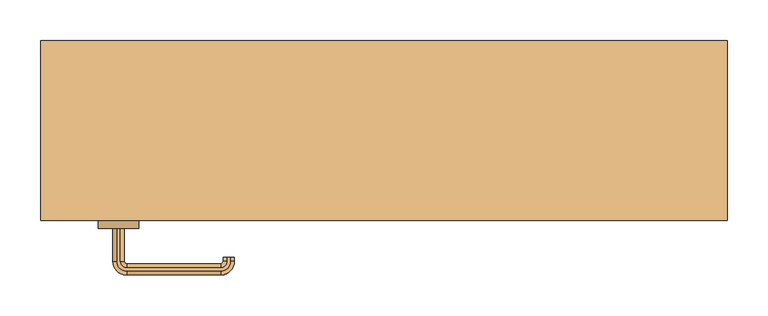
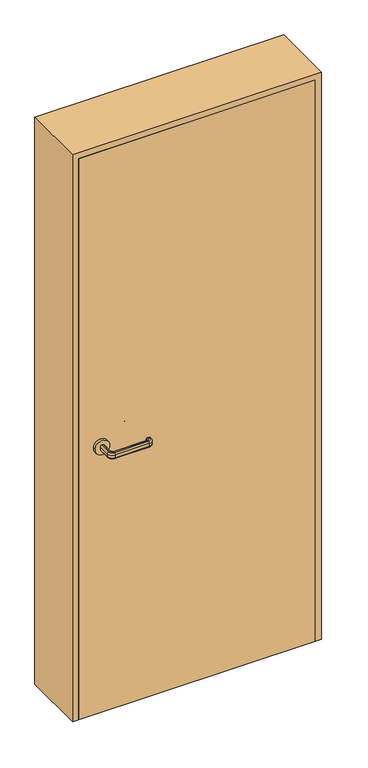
"""IFC4 building model written with IfcOpenShell, lengths in millimetres: door geometry, 鋼製_片開きマンション黒 : SD-2 w800h2000."""

from ifc_helpers import new_model, si_unit, point, frame, frame_2d, origin, origin_with_axes, place, context, project, spatial, polyline, circle_curve, ellipse_curve, trimmed, segment, composite_curve, outline, extrude, source, transform, mapped, element, save
from ifc_brep_helpers import plane_surface, cylinder_surface, revolved_surface, advanced_brep


def door_74c77d62(model_context):
    return source(origin(), model_context, "Body", "SolidModel", [
        advanced_brep(
        [(-327.0, -120.0, 960.0), (-323.0, -120.0, 960.0), (-318.0, -120.0, 955.0), (-318.0, -120.0, 945.0477623), (-323.0, -120.0, 940.0477623), (-327.0, -120.0, 940.0477623), (-332.0, -120.0, 945.0477623), (-332.0, -120.0, 955.0), (-332.0, -160.0, 955.0), (-327.0, -160.0, 960.0), (-332.0, -160.0, 945.0477623), (-327.0, -160.0, 940.0477623), (-323.0, -160.0, 940.0477623), (-315.0, -168.0, 940.0477623), (-200.0, -168.0, 940.0477623), (-192.0, -160.0, 940.0477623), (-192.0, -155.0, 940.0477623), (-188.0, -155.0, 940.0477623), (-188.0, -160.0, 940.0477623), (-200.0, -172.0, 940.0477623), (-315.0, -172.0, 940.0477623), (-318.0, -160.0, 945.0477623), (-318.0, -160.0, 955.0), (-323.0, -160.0, 960.0), (-315.0, -172.0, 960.0), (-200.0, -172.0, 960.0), (-188.0, -160.0, 960.0), (-188.0, -155.0, 960.0), (-192.0, -155.0, 960.0), (-192.0, -160.0, 960.0), (-200.0, -168.0, 960.0), (-315.0, -168.0, 960.0), (-315.0, -177.0, 955.0), (-315.0, -177.0, 945.0477623), (-315.0, -163.0, 945.0477623), (-315.0, -163.0, 955.0), (-200.0, -177.0, 955.0), (-200.0, -177.0, 945.0477623), (-200.0, -163.0, 945.0477623), (-200.0, -163.0, 955.0), (-183.0, -160.0, 955.0), (-183.0, -160.0, 945.0477623), (-197.0, -160.0, 945.0477623), (-197.0, -160.0, 955.0), (-183.0, -155.0, 955.0), (-183.0, -155.0, 945.0477623), (-197.0, -155.0, 945.0477623), (-197.0, -155.0, 955.0)],
        [
            (0, 1),
            (1, 2, circle_curve(frame((-323.0, -120.0, 955.0), z_axis=(0.0, 1.0, 0.0), x_axis=(-1.0, 0.0, 0.0)), 5.0)),
            (2, 3),
            (3, 4, circle_curve(frame((-323.0, -120.0, 945.0477623), z_axis=(0.0, 1.0, 0.0), x_axis=(-1.0, 0.0, 0.0)), 5.0)),
            (4, 5),
            (5, 6, circle_curve(frame((-327.0, -120.0, 945.0477623), z_axis=(0.0, 1.0, 0.0), x_axis=(-1.0, 0.0, 0.0)), 5.0)),
            (6, 7),
            (7, 0, circle_curve(frame((-327.0, -120.0, 955.0), z_axis=(0.0, 1.0, 0.0), x_axis=(-1.0, 0.0, 0.0)), 5.0)),
            (7, 8),
            (8, 9, circle_curve(frame((-327.0, -160.0, 955.0), z_axis=(0.0, 1.0, 0.0), x_axis=(-1.0, 0.0, 0.0)), 5.0)),
            (9, 0),
            (6, 10),
            (10, 8),
            (5, 11),
            (11, 10, circle_curve(frame((-327.0, -160.0, 945.0477623), z_axis=(0.0, 1.0, 0.0), x_axis=(-1.0, 0.0, 0.0)), 5.0)),
            (4, 12),
            (12, 13, circle_curve(frame((-315.0, -160.0, 940.0477623), z_axis=(0.0, 0.0, 1.0), x_axis=(-1.0, 0.0, 0.0)), 8.0)),
            (13, 14),
            (14, 15, circle_curve(frame((-200.0, -160.0, 940.0477623), z_axis=(0.0, 0.0, 1.0), x_axis=(0.0, -1.0, 0.0)), 8.0)),
            (15, 16),
            (16, 17),
            (17, 18),
            (18, 19, circle_curve(frame((-200.0, -160.0, 940.0477623), z_axis=(0.0, 0.0, -1.0), x_axis=(0.0, -1.0, 0.0)), 12.0)),
            (19, 20),
            (20, 11, circle_curve(frame((-315.0, -160.0, 940.0477623), z_axis=(0.0, 0.0, -1.0), x_axis=(-1.0, 0.0, 0.0)), 12.0)),
            (3, 21),
            (21, 12, circle_curve(frame((-323.0, -160.0, 945.0477623), z_axis=(0.0, 1.0, 0.0), x_axis=(-1.0, 0.0, 0.0)), 5.0)),
            (2, 22),
            (22, 21),
            (1, 23),
            (23, 22, circle_curve(frame((-323.0, -160.0, 955.0), z_axis=(0.0, 1.0, 0.0), x_axis=(-1.0, 0.0, 0.0)), 5.0)),
            (9, 24, circle_curve(frame((-315.0, -160.0, 960.0), z_axis=(0.0, 0.0, 1.0), x_axis=(-1.0, 0.0, 0.0)), 12.0)),
            (24, 25),
            (25, 26, circle_curve(frame((-200.0, -160.0, 960.0), z_axis=(0.0, 0.0, 1.0), x_axis=(0.0, -1.0, 0.0)), 12.0)),
            (26, 27),
            (27, 28),
            (28, 29),
            (29, 30, circle_curve(frame((-200.0, -160.0, 960.0), z_axis=(0.0, 0.0, -1.0), x_axis=(0.0, -1.0, 0.0)), 8.0)),
            (30, 31),
            (31, 23, circle_curve(frame((-315.0, -160.0, 960.0), z_axis=(0.0, 0.0, -1.0), x_axis=(-1.0, 0.0, 0.0)), 8.0)),
            (32, 24, circle_curve(frame((-315.0, -172.0, 955.0), z_axis=(-1.0, 0.0, 0.0), x_axis=(0.0, -1.0, 0.0)), 5.0)),
            (8, 32, circle_curve(frame((-315.0, -160.0, 955.0), z_axis=(0.0, 0.0, 1.0), x_axis=(-1.0, 0.0, 0.0)), 17.0)),
            (33, 32),
            (10, 33, circle_curve(frame((-315.0, -160.0, 945.0477623), z_axis=(0.0, 0.0, 1.0), x_axis=(-1.0, 0.0, 0.0)), 17.0)),
            (20, 33, circle_curve(frame((-315.0, -172.0, 945.0477623), z_axis=(-1.0, 0.0, 0.0), x_axis=(0.0, -1.0, 0.0)), 5.0)),
            (34, 13, circle_curve(frame((-315.0, -168.0, 945.0477623), z_axis=(-1.0, 0.0, 0.0), x_axis=(0.0, -1.0, 0.0)), 5.0)),
            (21, 34, circle_curve(frame((-315.0, -160.0, 945.0477623), z_axis=(0.0, 0.0, 1.0), x_axis=(-1.0, 0.0, 0.0)), 3.0)),
            (35, 34),
            (22, 35, circle_curve(frame((-315.0, -160.0, 955.0), z_axis=(0.0, 0.0, 1.0), x_axis=(-1.0, 0.0, 0.0)), 3.0)),
            (31, 35, circle_curve(frame((-315.0, -168.0, 955.0), z_axis=(-1.0, 0.0, 0.0), x_axis=(0.0, -1.0, 0.0)), 5.0)),
            (32, 36),
            (36, 25, circle_curve(frame((-200.0, -172.0, 955.0), z_axis=(-1.0, 0.0, 0.0), x_axis=(0.0, -1.0, 0.0)), 5.0)),
            (33, 37),
            (37, 36),
            (19, 37, circle_curve(frame((-200.0, -172.0, 945.0477623), z_axis=(-1.0, 0.0, 0.0), x_axis=(0.0, -1.0, 0.0)), 5.0)),
            (34, 38),
            (38, 14, circle_curve(frame((-200.0, -168.0, 945.0477623), z_axis=(-1.0, 0.0, 0.0), x_axis=(0.0, -1.0, 0.0)), 5.0)),
            (35, 39),
            (39, 38),
            (30, 39, circle_curve(frame((-200.0, -168.0, 955.0), z_axis=(-1.0, 0.0, 0.0), x_axis=(0.0, -1.0, 0.0)), 5.0)),
            (40, 26, circle_curve(frame((-188.0, -160.0, 955.0), z_axis=(0.0, -1.0, 0.0), x_axis=(1.0, 0.0, 0.0)), 5.0)),
            (36, 40, circle_curve(frame((-200.0, -160.0, 955.0), z_axis=(0.0, 0.0, 1.0), x_axis=(0.0, -1.0, 0.0)), 17.0)),
            (41, 40),
            (37, 41, circle_curve(frame((-200.0, -160.0, 945.0477623), z_axis=(0.0, 0.0, 1.0), x_axis=(0.0, -1.0, 0.0)), 17.0)),
            (18, 41, circle_curve(frame((-188.0, -160.0, 945.0477623), z_axis=(0.0, -1.0, 0.0), x_axis=(1.0, 0.0, 0.0)), 5.0)),
            (42, 15, circle_curve(frame((-192.0, -160.0, 945.0477623), z_axis=(0.0, -1.0, 0.0), x_axis=(1.0, 0.0, 0.0)), 5.0)),
            (38, 42, circle_curve(frame((-200.0, -160.0, 945.0477623), z_axis=(0.0, 0.0, 1.0), x_axis=(0.0, -1.0, 0.0)), 3.0)),
            (43, 42),
            (39, 43, circle_curve(frame((-200.0, -160.0, 955.0), z_axis=(0.0, 0.0, 1.0), x_axis=(0.0, -1.0, 0.0)), 3.0)),
            (29, 43, circle_curve(frame((-192.0, -160.0, 955.0), z_axis=(0.0, -1.0, 0.0), x_axis=(1.0, 0.0, 0.0)), 5.0)),
            (27, 44, circle_curve(frame((-188.0, -155.0, 955.0), z_axis=(0.0, 1.0, 0.0), x_axis=(1.0, 0.0, 0.0)), 5.0)),
            (44, 45),
            (45, 17, circle_curve(frame((-188.0, -155.0, 945.0477623), z_axis=(0.0, 1.0, 0.0), x_axis=(1.0, 0.0, 0.0)), 5.0)),
            (16, 46, circle_curve(frame((-192.0, -155.0, 945.0477623), z_axis=(0.0, 1.0, 0.0), x_axis=(1.0, 0.0, 0.0)), 5.0)),
            (46, 47),
            (47, 28, circle_curve(frame((-192.0, -155.0, 955.0), z_axis=(0.0, 1.0, 0.0), x_axis=(1.0, 0.0, 0.0)), 5.0)),
            (40, 44),
            (41, 45),
            (42, 46),
            (43, 47),
        ],
        [
            plane_surface(frame((-335.198039, -120.0, 950.0), z_axis=(0.0, 1.0, 0.0), x_axis=(0.0, 0.0, 1.0))),
            cylinder_surface(frame((-327.0, -120.0, 955.0), z_axis=(0.0, 1.0, 0.0), x_axis=(-1.0, 0.0, 0.0)), 5.0),
            plane_surface(frame((-332.0, -120.0, 955.0), z_axis=(-1.0, 0.0, 0.0), x_axis=(0.0, -1.0, 0.0))),
            cylinder_surface(frame((-327.0, -120.0, 945.0477623), z_axis=(0.0, 1.0, 0.0), x_axis=(-1.0, 0.0, 0.0)), 5.0),
            plane_surface(frame((-327.0, -120.0, 940.0477623), z_axis=(0.0, 0.0, -1.0), x_axis=(0.0, -1.0, 0.0))),
            cylinder_surface(frame((-323.0, -120.0, 945.0477623), z_axis=(0.0, 1.0, 0.0), x_axis=(-1.0, 0.0, 0.0)), 5.0),
            plane_surface(frame((-318.0, -120.0, 945.0477623), z_axis=(1.0, 0.0, 0.0), x_axis=(0.0, -1.0, 0.0))),
            cylinder_surface(frame((-323.0, -120.0, 955.0), z_axis=(0.0, 1.0, 0.0), x_axis=(-1.0, 0.0, 0.0)), 5.0),
            plane_surface(frame((-323.0, -120.0, 960.0), z_axis=(0.0, 0.0, 1.0), x_axis=(0.0, -1.0, 0.0))),
            revolved_surface(trimmed(ellipse_curve(frame((-327.0, -160.0, 955.0), z_axis=(0.0, -1.0, 0.0), x_axis=(-1.0, 0.0, 0.0)), 5.0, 5.0), [point((-327.0, -160.0, 960.0))], [point((-332.0, -160.0, 955.0))], True, "CARTESIAN"), (-315.0, -160.0, 950.0), (0.0, 0.0, -1.0)),
            cylinder_surface(frame((-315.0, -160.0, 950.0), z_axis=(0.0, 0.0, -1.0), x_axis=(-1.0, 0.0, 0.0)), 17.0),
            revolved_surface(trimmed(ellipse_curve(frame((-327.0, -160.0, 945.0477623), z_axis=(0.0, -1.0, 0.0), x_axis=(-1.0, 0.0, 0.0)), 5.0, 5.0), [point((-332.0, -160.0, 945.0477623))], [point((-327.0, -160.0, 940.0477623))], True, "CARTESIAN"), (-315.0, -160.0, 950.0), (0.0, 0.0, -1.0)),
            revolved_surface(trimmed(ellipse_curve(frame((-323.0, -160.0, 945.0477623), z_axis=(0.0, -1.0, 0.0), x_axis=(-1.0, 0.0, 0.0)), 5.0, 5.0), [point((-323.0, -160.0, 940.0477623))], [point((-318.0, -160.0, 945.0477623))], True, "CARTESIAN"), (-315.0, -160.0, 950.0), (0.0, 0.0, -1.0)),
            revolved_surface(polyline([(-318.0, -160.0, 945.0477623), (-318.0, -160.0, 955.0)]), (-315.0, -160.0, 950.0), (0.0, 0.0, -1.0)),
            revolved_surface(trimmed(ellipse_curve(frame((-323.0, -160.0, 955.0), z_axis=(0.0, -1.0, 0.0), x_axis=(-1.0, 0.0, 0.0)), 5.0, 5.0), [point((-318.0, -160.0, 955.0))], [point((-323.0, -160.0, 960.0))], True, "CARTESIAN"), (-315.0, -160.0, 950.0), (0.0, 0.0, -1.0)),
            cylinder_surface(frame((-315.0, -172.0, 955.0), z_axis=(-1.0, 0.0, 0.0), x_axis=(0.0, -1.0, 0.0)), 5.0),
            plane_surface(frame((-315.0, -177.0, 955.0), z_axis=(0.0, -1.0, 0.0), x_axis=(1.0, 0.0, 0.0))),
            cylinder_surface(frame((-315.0, -172.0, 945.0477623), z_axis=(-1.0, 0.0, 0.0), x_axis=(0.0, -1.0, 0.0)), 5.0),
            cylinder_surface(frame((-315.0, -168.0, 945.0477623), z_axis=(-1.0, 0.0, 0.0), x_axis=(0.0, -1.0, 0.0)), 5.0),
            plane_surface(frame((-315.0, -163.0, 945.0477623), z_axis=(0.0, 1.0, 0.0), x_axis=(1.0, 0.0, 0.0))),
            cylinder_surface(frame((-315.0, -168.0, 955.0), z_axis=(-1.0, 0.0, 0.0), x_axis=(0.0, -1.0, 0.0)), 5.0),
            revolved_surface(trimmed(ellipse_curve(frame((-200.0, -172.0, 955.0), z_axis=(1.0, 0.0, 0.0), x_axis=(0.0, -1.0, 0.0)), 5.0, 5.0), [point((-200.0, -172.0, 960.0))], [point((-200.0, -177.0, 955.0))], True, "CARTESIAN"), (-200.0, -160.0, 950.0), (0.0, 0.0, -1.0)),
            cylinder_surface(frame((-200.0, -160.0, 950.0), z_axis=(0.0, 0.0, -1.0), x_axis=(0.0, -1.0, 0.0)), 17.0),
            revolved_surface(trimmed(ellipse_curve(frame((-200.0, -172.0, 945.0477623), z_axis=(1.0, 0.0, 0.0), x_axis=(0.0, -1.0, 0.0)), 5.0, 5.0), [point((-200.0, -177.0, 945.0477623))], [point((-200.0, -172.0, 940.0477623))], True, "CARTESIAN"), (-200.0, -160.0, 950.0), (0.0, 0.0, -1.0)),
            revolved_surface(trimmed(ellipse_curve(frame((-200.0, -168.0, 945.0477623), z_axis=(1.0, 0.0, 0.0), x_axis=(0.0, -1.0, 0.0)), 5.0, 5.0), [point((-200.0, -168.0, 940.0477623))], [point((-200.0, -163.0, 945.0477623))], True, "CARTESIAN"), (-200.0, -160.0, 950.0), (0.0, 0.0, -1.0)),
            revolved_surface(polyline([(-200.0, -163.0, 945.0477623), (-200.0, -163.0, 955.0)]), (-200.0, -160.0, 950.0), (0.0, 0.0, -1.0)),
            revolved_surface(trimmed(ellipse_curve(frame((-200.0, -168.0, 955.0), z_axis=(1.0, 0.0, 0.0), x_axis=(0.0, -1.0, 0.0)), 5.0, 5.0), [point((-200.0, -163.0, 955.0))], [point((-200.0, -168.0, 960.0))], True, "CARTESIAN"), (-200.0, -160.0, 950.0), (0.0, 0.0, -1.0)),
            plane_surface(frame((-200.198039, -155.0, 950.0), z_axis=(0.0, 1.0, 0.0), x_axis=(0.0, 0.0, -1.0))),
            cylinder_surface(frame((-188.0, -160.0, 955.0), z_axis=(0.0, -1.0, 0.0), x_axis=(1.0, 0.0, 0.0)), 5.0),
            plane_surface(frame((-183.0, -160.0, 955.0), z_axis=(1.0, 0.0, 0.0), x_axis=(0.0, 1.0, 0.0))),
            cylinder_surface(frame((-188.0, -160.0, 945.0477623), z_axis=(0.0, -1.0, 0.0), x_axis=(1.0, 0.0, 0.0)), 5.0),
            cylinder_surface(frame((-192.0, -160.0, 945.0477623), z_axis=(0.0, -1.0, 0.0), x_axis=(1.0, 0.0, 0.0)), 5.0),
            plane_surface(frame((-197.0, -160.0, 945.0477623), z_axis=(-1.0, 0.0, 0.0), x_axis=(0.0, 1.0, 0.0))),
            cylinder_surface(frame((-192.0, -160.0, 955.0), z_axis=(0.0, -1.0, 0.0), x_axis=(1.0, 0.0, 0.0)), 5.0),
        ],
        [
            (0, [[1, 2, 3, 4, 5, 6, 7, 8]]),
            (1, [[9, 10, 11, -8]]),
            (2, [[12, 13, -9, -7]]),
            (3, [[14, 15, -12, -6]]),
            (4, [[16, 17, 18, 19, 20, 21, 22, 23, 24, 25, -14, -5]]),
            (5, [[26, 27, -16, -4]]),
            (6, [[28, 29, -26, -3]]),
            (7, [[30, 31, -28, -2]]),
            (8, [[-11, 32, 33, 34, 35, 36, 37, 38, 39, 40, -30, -1]]),
            (9, [[41, -32, -10, 42]]),
            (10, [[43, -42, -13, 44]]),
            (11, [[45, -44, -15, -25]]),
            (12, [[46, -17, -27, 47]]),
            (13, [[48, -47, -29, 49]]),
            (14, [[50, -49, -31, -40]]),
            (15, [[51, 52, -33, -41]]),
            (16, [[53, 54, -51, -43]]),
            (17, [[-24, 55, -53, -45]]),
            (18, [[56, 57, -18, -46]]),
            (19, [[58, 59, -56, -48]]),
            (20, [[-39, 60, -58, -50]]),
            (21, [[61, -34, -52, 62]]),
            (22, [[63, -62, -54, 64]]),
            (23, [[65, -64, -55, -23]]),
            (24, [[66, -19, -57, 67]]),
            (25, [[68, -67, -59, 69]]),
            (26, [[70, -69, -60, -38]]),
            (27, [[71, 72, 73, -21, 74, 75, 76, -36]]),
            (28, [[77, -71, -35, -61]]),
            (29, [[78, -72, -77, -63]]),
            (30, [[-22, -73, -78, -65]]),
            (31, [[79, -74, -20, -66]]),
            (32, [[80, -75, -79, -68]]),
            (33, [[-37, -76, -80, -70]]),
        ],
    ),
        advanced_brep(
        [(-323.0, -70.0, 940.0), (-318.0, -70.0, 945.0), (-318.0, -70.0, 955.0), (-323.0, -70.0, 960.0), (-327.0, -70.0, 960.0), (-332.0, -70.0, 955.0), (-332.0, -70.0, 945.0), (-327.0, -70.0, 940.0), (-327.0, -30.0, 940.0), (-315.0, -18.0, 940.0), (-200.0, -18.0, 940.0), (-188.0, -30.0, 940.0), (-188.0, -35.0, 940.0), (-192.0, -35.0, 940.0), (-192.0, -30.0, 940.0), (-200.0, -22.0, 940.0), (-315.0, -22.0, 940.0), (-323.0, -30.0, 940.0), (-332.0, -30.0, 945.0), (-332.0, -30.0, 955.0), (-327.0, -30.0, 960.0), (-323.0, -30.0, 960.0), (-315.0, -22.0, 960.0), (-200.0, -22.0, 960.0), (-192.0, -30.0, 960.0), (-192.0, -35.0, 960.0), (-188.0, -35.0, 960.0), (-188.0, -30.0, 960.0), (-200.0, -18.0, 960.0), (-315.0, -18.0, 960.0), (-318.0, -30.0, 955.0), (-318.0, -30.0, 945.0), (-315.0, -13.0, 945.0), (-315.0, -13.0, 955.0), (-315.0, -27.0, 955.0), (-315.0, -27.0, 945.0), (-200.0, -13.0, 945.0), (-200.0, -13.0, 955.0), (-200.0, -27.0, 955.0), (-200.0, -27.0, 945.0), (-183.0, -30.0, 945.0), (-183.0, -30.0, 955.0), (-197.0, -30.0, 955.0), (-197.0, -30.0, 945.0), (-183.0, -35.0, 945.0), (-183.0, -35.0, 955.0), (-197.0, -35.0, 955.0), (-197.0, -35.0, 945.0)],
        [
            (0, 1, circle_curve(frame((-323.0, -70.0, 945.0), z_axis=(0.0, -1.0, 0.0), x_axis=(1.0, 0.0, 0.0)), 5.0)),
            (1, 2),
            (2, 3, circle_curve(frame((-323.0, -70.0, 955.0), z_axis=(0.0, -1.0, 0.0), x_axis=(1.0, 0.0, 0.0)), 5.0)),
            (3, 4),
            (4, 5, circle_curve(frame((-327.0, -70.0, 955.0), z_axis=(0.0, -1.0, 0.0), x_axis=(1.0, 0.0, 0.0)), 5.0)),
            (5, 6),
            (6, 7, circle_curve(frame((-327.0, -70.0, 945.0), z_axis=(0.0, -1.0, 0.0), x_axis=(1.0, 0.0, 0.0)), 5.0)),
            (7, 0),
            (7, 8),
            (8, 9, circle_curve(frame((-315.0, -30.0, 940.0), z_axis=(0.0, 0.0, -1.0), x_axis=(-1.0, 0.0, 0.0)), 12.0)),
            (9, 10),
            (10, 11, circle_curve(frame((-200.0, -30.0, 940.0), z_axis=(0.0, 0.0, -1.0), x_axis=(0.0, 1.0, 0.0)), 12.0)),
            (11, 12),
            (12, 13),
            (13, 14),
            (14, 15, circle_curve(frame((-200.0, -30.0, 940.0), z_axis=(0.0, 0.0, 1.0), x_axis=(0.0, 1.0, 0.0)), 8.0)),
            (15, 16),
            (16, 17, circle_curve(frame((-315.0, -30.0, 940.0), z_axis=(0.0, 0.0, 1.0), x_axis=(-1.0, 0.0, 0.0)), 8.0)),
            (17, 0),
            (6, 18),
            (18, 8, circle_curve(frame((-327.0, -30.0, 945.0), z_axis=(0.0, -1.0, 0.0), x_axis=(1.0, 0.0, 0.0)), 5.0)),
            (5, 19),
            (19, 18),
            (4, 20),
            (20, 19, circle_curve(frame((-327.0, -30.0, 955.0), z_axis=(0.0, -1.0, 0.0), x_axis=(1.0, 0.0, 0.0)), 5.0)),
            (3, 21),
            (21, 22, circle_curve(frame((-315.0, -30.0, 960.0), z_axis=(0.0, 0.0, -1.0), x_axis=(-1.0, 0.0, 0.0)), 8.0)),
            (22, 23),
            (23, 24, circle_curve(frame((-200.0, -30.0, 960.0), z_axis=(0.0, 0.0, -1.0), x_axis=(0.0, 1.0, 0.0)), 8.0)),
            (24, 25),
            (25, 26),
            (26, 27),
            (27, 28, circle_curve(frame((-200.0, -30.0, 960.0), z_axis=(0.0, 0.0, 1.0), x_axis=(0.0, 1.0, 0.0)), 12.0)),
            (28, 29),
            (29, 20, circle_curve(frame((-315.0, -30.0, 960.0), z_axis=(0.0, 0.0, 1.0), x_axis=(-1.0, 0.0, 0.0)), 12.0)),
            (2, 30),
            (30, 21, circle_curve(frame((-323.0, -30.0, 955.0), z_axis=(0.0, -1.0, 0.0), x_axis=(1.0, 0.0, 0.0)), 5.0)),
            (1, 31),
            (31, 30),
            (17, 31, circle_curve(frame((-323.0, -30.0, 945.0), z_axis=(0.0, -1.0, 0.0), x_axis=(1.0, 0.0, 0.0)), 5.0)),
            (32, 9, circle_curve(frame((-315.0, -18.0, 945.0), z_axis=(-1.0, 0.0, 0.0), x_axis=(0.0, -1.0, 0.0)), 5.0)),
            (18, 32, circle_curve(frame((-315.0, -30.0, 945.0), z_axis=(0.0, 0.0, -1.0), x_axis=(-1.0, 0.0, 0.0)), 17.0)),
            (33, 32),
            (19, 33, circle_curve(frame((-315.0, -30.0, 955.0), z_axis=(0.0, 0.0, -1.0), x_axis=(-1.0, 0.0, 0.0)), 17.0)),
            (29, 33, circle_curve(frame((-315.0, -18.0, 955.0), z_axis=(-1.0, 0.0, 0.0), x_axis=(0.0, -1.0, 0.0)), 5.0)),
            (34, 22, circle_curve(frame((-315.0, -22.0, 955.0), z_axis=(-1.0, 0.0, 0.0), x_axis=(0.0, -1.0, 0.0)), 5.0)),
            (30, 34, circle_curve(frame((-315.0, -30.0, 955.0), z_axis=(0.0, 0.0, -1.0), x_axis=(-1.0, 0.0, 0.0)), 3.0)),
            (35, 34),
            (31, 35, circle_curve(frame((-315.0, -30.0, 945.0), z_axis=(0.0, 0.0, -1.0), x_axis=(-1.0, 0.0, 0.0)), 3.0)),
            (16, 35, circle_curve(frame((-315.0, -22.0, 945.0), z_axis=(-1.0, 0.0, 0.0), x_axis=(0.0, -1.0, 0.0)), 5.0)),
            (32, 36),
            (36, 10, circle_curve(frame((-200.0, -18.0, 945.0), z_axis=(-1.0, 0.0, 0.0), x_axis=(0.0, -1.0, 0.0)), 5.0)),
            (33, 37),
            (37, 36),
            (28, 37, circle_curve(frame((-200.0, -18.0, 955.0), z_axis=(-1.0, 0.0, 0.0), x_axis=(0.0, -1.0, 0.0)), 5.0)),
            (34, 38),
            (38, 23, circle_curve(frame((-200.0, -22.0, 955.0), z_axis=(-1.0, 0.0, 0.0), x_axis=(0.0, -1.0, 0.0)), 5.0)),
            (35, 39),
            (39, 38),
            (15, 39, circle_curve(frame((-200.0, -22.0, 945.0), z_axis=(-1.0, 0.0, 0.0), x_axis=(0.0, -1.0, 0.0)), 5.0)),
            (40, 11, circle_curve(frame((-188.0, -30.0, 945.0), z_axis=(0.0, 1.0, 0.0), x_axis=(-1.0, 0.0, 0.0)), 5.0)),
            (36, 40, circle_curve(frame((-200.0, -30.0, 945.0), z_axis=(0.0, 0.0, -1.0), x_axis=(0.0, 1.0, 0.0)), 17.0)),
            (41, 40),
            (37, 41, circle_curve(frame((-200.0, -30.0, 955.0), z_axis=(0.0, 0.0, -1.0), x_axis=(0.0, 1.0, 0.0)), 17.0)),
            (27, 41, circle_curve(frame((-188.0, -30.0, 955.0), z_axis=(0.0, 1.0, 0.0), x_axis=(-1.0, 0.0, 0.0)), 5.0)),
            (42, 24, circle_curve(frame((-192.0, -30.0, 955.0), z_axis=(0.0, 1.0, 0.0), x_axis=(-1.0, 0.0, 0.0)), 5.0)),
            (38, 42, circle_curve(frame((-200.0, -30.0, 955.0), z_axis=(0.0, 0.0, -1.0), x_axis=(0.0, 1.0, 0.0)), 3.0)),
            (43, 42),
            (39, 43, circle_curve(frame((-200.0, -30.0, 945.0), z_axis=(0.0, 0.0, -1.0), x_axis=(0.0, 1.0, 0.0)), 3.0)),
            (14, 43, circle_curve(frame((-192.0, -30.0, 945.0), z_axis=(0.0, 1.0, 0.0), x_axis=(-1.0, 0.0, 0.0)), 5.0)),
            (12, 44, circle_curve(frame((-188.0, -35.0, 945.0), z_axis=(0.0, -1.0, 0.0), x_axis=(-1.0, 0.0, 0.0)), 5.0)),
            (44, 45),
            (45, 26, circle_curve(frame((-188.0, -35.0, 955.0), z_axis=(0.0, -1.0, 0.0), x_axis=(-1.0, 0.0, 0.0)), 5.0)),
            (25, 46, circle_curve(frame((-192.0, -35.0, 955.0), z_axis=(0.0, -1.0, 0.0), x_axis=(-1.0, 0.0, 0.0)), 5.0)),
            (46, 47),
            (47, 13, circle_curve(frame((-192.0, -35.0, 945.0), z_axis=(0.0, -1.0, 0.0), x_axis=(-1.0, 0.0, 0.0)), 5.0)),
            (40, 44),
            (41, 45),
            (42, 46),
            (43, 47),
        ],
        [
            plane_surface(frame((-335.198039, -70.0, 950.0), z_axis=(0.0, -1.0, 0.0), x_axis=(0.0, 0.0, -1.0))),
            plane_surface(frame((-323.0, -70.0, 940.0), z_axis=(0.0, 0.0, -1.0), x_axis=(0.0, 1.0, 0.0))),
            cylinder_surface(frame((-327.0, -70.0, 945.0), z_axis=(0.0, -1.0, 0.0), x_axis=(1.0, 0.0, 0.0)), 5.0),
            plane_surface(frame((-332.0, -70.0, 945.0), z_axis=(-1.0, 0.0, 0.0), x_axis=(0.0, 1.0, 0.0))),
            cylinder_surface(frame((-327.0, -70.0, 955.0), z_axis=(0.0, -1.0, 0.0), x_axis=(1.0, 0.0, 0.0)), 5.0),
            plane_surface(frame((-327.0, -70.0, 960.0), z_axis=(0.0, 0.0, 1.0), x_axis=(0.0, 1.0, 0.0))),
            cylinder_surface(frame((-323.0, -70.0, 955.0), z_axis=(0.0, -1.0, 0.0), x_axis=(1.0, 0.0, 0.0)), 5.0),
            plane_surface(frame((-318.0, -70.0, 955.0), z_axis=(1.0, 0.0, 0.0), x_axis=(0.0, 1.0, 0.0))),
            cylinder_surface(frame((-323.0, -70.0, 945.0), z_axis=(0.0, -1.0, 0.0), x_axis=(1.0, 0.0, 0.0)), 5.0),
            revolved_surface(trimmed(ellipse_curve(frame((-327.0, -30.0, 945.0), z_axis=(0.0, 1.0, 0.0), x_axis=(1.0, 0.0, 0.0)), 5.0, 5.0), [point((-327.0, -30.0, 940.0))], [point((-332.0, -30.0, 945.0))], True, "CARTESIAN"), (-315.0, -30.0, 950.0), (0.0, 0.0, 1.0)),
            cylinder_surface(frame((-315.0, -30.0, 950.0), z_axis=(0.0, 0.0, 1.0), x_axis=(-1.0, 0.0, 0.0)), 17.0),
            revolved_surface(trimmed(ellipse_curve(frame((-327.0, -30.0, 955.0), z_axis=(0.0, 1.0, 0.0), x_axis=(1.0, 0.0, 0.0)), 5.0, 5.0), [point((-332.0, -30.0, 955.0))], [point((-327.0, -30.0, 960.0))], True, "CARTESIAN"), (-315.0, -30.0, 950.0), (0.0, 0.0, 1.0)),
            revolved_surface(trimmed(ellipse_curve(frame((-323.0, -30.0, 955.0), z_axis=(0.0, 1.0, 0.0), x_axis=(1.0, 0.0, 0.0)), 5.0, 5.0), [point((-323.0, -30.0, 960.0))], [point((-318.0, -30.0, 955.0))], True, "CARTESIAN"), (-315.0, -30.0, 950.0), (0.0, 0.0, 1.0)),
            revolved_surface(polyline([(-318.0, -30.0, 955.0), (-318.0, -30.0, 945.0)]), (-315.0, -30.0, 950.0), (0.0, 0.0, 1.0)),
            revolved_surface(trimmed(ellipse_curve(frame((-323.0, -30.0, 945.0), z_axis=(0.0, 1.0, 0.0), x_axis=(1.0, 0.0, 0.0)), 5.0, 5.0), [point((-318.0, -30.0, 945.0))], [point((-323.0, -30.0, 940.0))], True, "CARTESIAN"), (-315.0, -30.0, 950.0), (0.0, 0.0, 1.0)),
            cylinder_surface(frame((-315.0, -18.0, 945.0), z_axis=(-1.0, 0.0, 0.0), x_axis=(0.0, -1.0, 0.0)), 5.0),
            plane_surface(frame((-315.0, -13.0, 945.0), z_axis=(0.0, 1.0, 0.0), x_axis=(1.0, 0.0, 0.0))),
            cylinder_surface(frame((-315.0, -18.0, 955.0), z_axis=(-1.0, 0.0, 0.0), x_axis=(0.0, -1.0, 0.0)), 5.0),
            cylinder_surface(frame((-315.0, -22.0, 955.0), z_axis=(-1.0, 0.0, 0.0), x_axis=(0.0, -1.0, 0.0)), 5.0),
            plane_surface(frame((-315.0, -27.0, 955.0), z_axis=(0.0, -1.0, 0.0), x_axis=(1.0, 0.0, 0.0))),
            cylinder_surface(frame((-315.0, -22.0, 945.0), z_axis=(-1.0, 0.0, 0.0), x_axis=(0.0, -1.0, 0.0)), 5.0),
            revolved_surface(trimmed(ellipse_curve(frame((-200.0, -18.0, 945.0), z_axis=(1.0, 0.0, 0.0), x_axis=(0.0, -1.0, 0.0)), 5.0, 5.0), [point((-200.0, -18.0, 940.0))], [point((-200.0, -13.0, 945.0))], True, "CARTESIAN"), (-200.0, -30.0, 950.0), (0.0, 0.0, 1.0)),
            cylinder_surface(frame((-200.0, -30.0, 950.0), z_axis=(0.0, 0.0, 1.0), x_axis=(0.0, 1.0, 0.0)), 17.0),
            revolved_surface(trimmed(ellipse_curve(frame((-200.0, -18.0, 955.0), z_axis=(1.0, 0.0, 0.0), x_axis=(0.0, -1.0, 0.0)), 5.0, 5.0), [point((-200.0, -13.0, 955.0))], [point((-200.0, -18.0, 960.0))], True, "CARTESIAN"), (-200.0, -30.0, 950.0), (0.0, 0.0, 1.0)),
            revolved_surface(trimmed(ellipse_curve(frame((-200.0, -22.0, 955.0), z_axis=(1.0, 0.0, 0.0), x_axis=(0.0, -1.0, 0.0)), 5.0, 5.0), [point((-200.0, -22.0, 960.0))], [point((-200.0, -27.0, 955.0))], True, "CARTESIAN"), (-200.0, -30.0, 950.0), (0.0, 0.0, 1.0)),
            revolved_surface(polyline([(-200.0, -27.0, 955.0), (-200.0, -27.0, 945.0)]), (-200.0, -30.0, 950.0), (0.0, 0.0, 1.0)),
            revolved_surface(trimmed(ellipse_curve(frame((-200.0, -22.0, 945.0), z_axis=(1.0, 0.0, 0.0), x_axis=(0.0, -1.0, 0.0)), 5.0, 5.0), [point((-200.0, -27.0, 945.0))], [point((-200.0, -22.0, 940.0))], True, "CARTESIAN"), (-200.0, -30.0, 950.0), (0.0, 0.0, 1.0)),
            plane_surface(frame((-200.198039, -35.0, 950.0), z_axis=(0.0, -1.0, 0.0), x_axis=(0.0, 0.0, 1.0))),
            cylinder_surface(frame((-188.0, -30.0, 945.0), z_axis=(0.0, 1.0, 0.0), x_axis=(-1.0, 0.0, 0.0)), 5.0),
            plane_surface(frame((-183.0, -30.0, 945.0), z_axis=(1.0, 0.0, 0.0), x_axis=(0.0, -1.0, 0.0))),
            cylinder_surface(frame((-188.0, -30.0, 955.0), z_axis=(0.0, 1.0, 0.0), x_axis=(-1.0, 0.0, 0.0)), 5.0),
            cylinder_surface(frame((-192.0, -30.0, 955.0), z_axis=(0.0, 1.0, 0.0), x_axis=(-1.0, 0.0, 0.0)), 5.0),
            plane_surface(frame((-197.0, -30.0, 955.0), z_axis=(-1.0, 0.0, 0.0), x_axis=(0.0, -1.0, 0.0))),
            cylinder_surface(frame((-192.0, -30.0, 945.0), z_axis=(0.0, 1.0, 0.0), x_axis=(-1.0, 0.0, 0.0)), 5.0),
        ],
        [
            (0, [[1, 2, 3, 4, 5, 6, 7, 8]]),
            (1, [[9, 10, 11, 12, 13, 14, 15, 16, 17, 18, 19, -8]]),
            (2, [[20, 21, -9, -7]]),
            (3, [[22, 23, -20, -6]]),
            (4, [[24, 25, -22, -5]]),
            (5, [[26, 27, 28, 29, 30, 31, 32, 33, 34, 35, -24, -4]]),
            (6, [[36, 37, -26, -3]]),
            (7, [[38, 39, -36, -2]]),
            (8, [[-19, 40, -38, -1]]),
            (9, [[41, -10, -21, 42]]),
            (10, [[43, -42, -23, 44]]),
            (11, [[45, -44, -25, -35]]),
            (12, [[46, -27, -37, 47]]),
            (13, [[48, -47, -39, 49]]),
            (14, [[50, -49, -40, -18]]),
            (15, [[51, 52, -11, -41]]),
            (16, [[53, 54, -51, -43]]),
            (17, [[-34, 55, -53, -45]]),
            (18, [[56, 57, -28, -46]]),
            (19, [[58, 59, -56, -48]]),
            (20, [[-17, 60, -58, -50]]),
            (21, [[61, -12, -52, 62]]),
            (22, [[63, -62, -54, 64]]),
            (23, [[65, -64, -55, -33]]),
            (24, [[66, -29, -57, 67]]),
            (25, [[68, -67, -59, 69]]),
            (26, [[70, -69, -60, -16]]),
            (27, [[-14, 71, 72, 73, -31, 74, 75, 76]]),
            (28, [[77, -71, -13, -61]]),
            (29, [[78, -72, -77, -63]]),
            (30, [[-32, -73, -78, -65]]),
            (31, [[79, -74, -30, -66]]),
            (32, [[80, -75, -79, -68]]),
            (33, [[-15, -76, -80, -70]]),
        ],
    ),
        extrude(outline(composite_curve([segment(trimmed(circle_curve(frame_2d((950.0, -325.0)), 25.0), [point((950.0, -350.0))], [point((950.0, -300.0))], False, "CARTESIAN"), True, "CONTINUOUS"), segment(trimmed(circle_curve(frame_2d((950.0, -325.0)), 25.0), [point((950.0, -300.0))], [point((950.0, -350.0))], False, "CARTESIAN"), True, "CONTINUOUS")], self_intersect=False)), frame((0.0, -120.0, 0.0), z_axis=(0.0, 1.0, 0.0), x_axis=(0.0, 0.0, 1.0)), (0.0, 0.0, 1.0), 10.0),
        extrude(outline(composite_curve([segment(trimmed(circle_curve(frame_2d((950.0, -325.0)), 25.0), [point((950.0, -350.0))], [point((950.0, -300.0))], False, "CARTESIAN"), True, "CONTINUOUS"), segment(trimmed(circle_curve(frame_2d((950.0, -325.0)), 25.0), [point((950.0, -300.0))], [point((950.0, -350.0))], False, "CARTESIAN"), True, "CONTINUOUS")], self_intersect=False)), frame((0.0, -80.0, 0.0), z_axis=(0.0, 1.0, 0.0), x_axis=(0.0, 0.0, 1.0)), (0.0, 0.0, 1.0), 10.0),
        extrude(outline(polyline([(2020.0, -420.0), (0.0, -420.0), (0.0, -400.0), (2000.0, -400.0), (2000.0, 400.0), (0.0, 400.0), (0.0, 420.0), (2020.0, 420.0), (2020.0, -420.0)])), frame((0.0, -110.0, 0.0), z_axis=(0.0, 1.0, 0.0), x_axis=(0.0, 0.0, 1.0)), (0.0, 0.0, 1.0), 220.0),
        extrude(outline(polyline([(400.0, -80.0), (400.0, -110.0), (-400.0, -110.0), (-400.0, -80.0), (400.0, -80.0)])), origin_with_axes(), (0.0, 0.0, 1.0), 2000.0),
    ])


if __name__ == "__main__":
    model = new_model("IFC4")
    model_context = context("Model", 3, world=origin())
    ifc_project = project(units=[si_unit("LENGTHUNIT", "METRE", prefix="MILLI")], contexts=[model_context])
    site = spatial("IfcSite", under=ifc_project)
    building = spatial("IfcBuilding", under=site)
    placement = place(None, origin())
    door_shape = door_74c77d62(model_context)
    element("IfcDoor", 1, ObjectType="鋼製_片開きマンション黒 : SD-2 w800h2000", at=placement, inside=building, context=model_context, shape_type="MappedRepresentation", body=[
        mapped(door_shape, transform((0.0, 0.0, 0.0), x_axis=(1.0, 0.0, 0.0), y_axis=(0.0, 1.0, 0.0), z_axis=(0.0, 0.0, 1.0))),
    ])
    save(model, "model.ifc")
